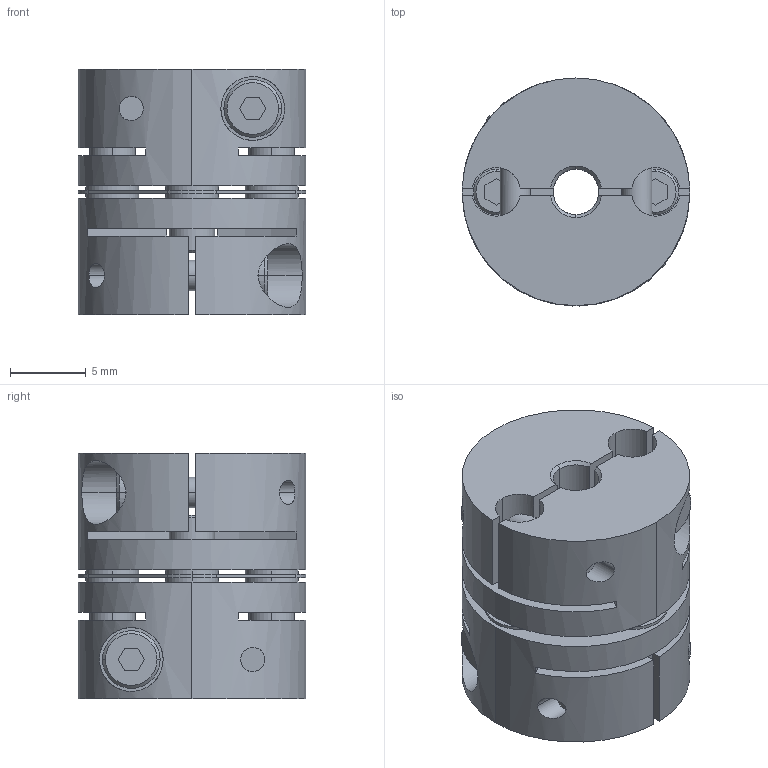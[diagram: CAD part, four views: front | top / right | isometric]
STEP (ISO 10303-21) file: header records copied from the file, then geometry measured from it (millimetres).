
FILE_DESCRIPTION((''),'2;1');
FILE_NAME('LAS-15C-3×4.stp','2011-08-09T14:16:40',(''),(''),'AutoCAD STEP 2000i','AutoCAD 2000i',', , ');
FILE_SCHEMA(('CONFIG_CONTROL_DESIGN'));
Length unit declared in the file: millimetre
Products named in the file (5): LAS-15C-3×3; 忣兜1; LA-1502-D03-1; LA-1502-D03; LAS15-ITA
Assembly tree (4 placements, depth 2):
  LAS-15C-3×3
    忣兜1
    LA-1502-D03-1
    LA-1502-D03
    LAS15-ITA
Bounding box: 15 x 15 x 16.2 mm (x, y, z)
Volume: 2253.1 mm3; surface area: 2712 mm2
Topology: 1 solids, 1 shells, 236 faces, 624 edges, 408 vertices
Faces by surface type: plane 112, cylinder 96, cone 28
Entity records: 8155 total; most frequent: CARTESIAN_POINT 1961, DIRECTION 1302, ORIENTED_EDGE 1248, EDGE_CURVE 624, AXIS2_PLACEMENT_3D 477, VERTEX_POINT 408, VECTOR 348, LINE 348
